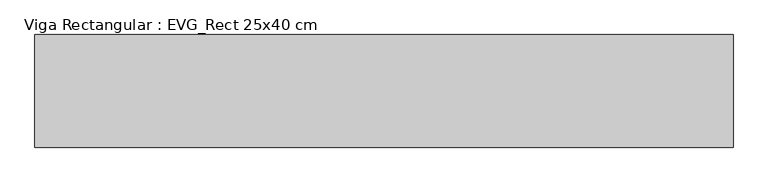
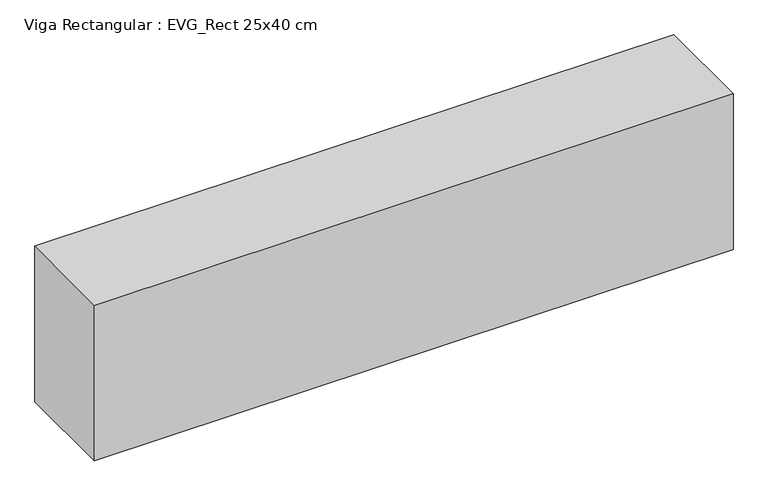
"""IFC4 building model written with IfcOpenShell, lengths in millimetres: beam geometry, Viga Rectangular : EVG_Rect 25x40 cm."""

import ifcopenshell
import ifcopenshell.guid

model = None  # the IFC model being written
_history = None  # IfcOwnerHistory: only IFC2X3 demands one
_inside = {}  # id of a spatial element -> (the spatial element, [elements in it])
_under = {}  # id of a project, library or spatial element -> (it, [spatial elements below it])
_declared = {}  # id of a project -> (the project, [libraries it declares])
_typed = {}  # id of a type object -> (the type object, [elements of that type])
_made_of = {}  # id of a material, layer set ... -> (it, [elements and type objects made of it])


def new_model(schema):
    """Start an empty IFC model of exactly this schema.

    Asked for "IFC4X3", IfcOpenShell would pick the latest addendum, in which some entities
    have other attributes; the version numbers below select the first issue.
    IFC2X3 requires an IfcOwnerHistory on every rooted entity: one is made here for all.
    """
    global model, _history
    if schema == "IFC4X3":
        model = ifcopenshell.file(schema_version=(4, 3, 0, 0))
    else:
        model = ifcopenshell.file(schema=schema)
    _inside.clear()
    _under.clear()
    _declared.clear()
    _typed.clear()
    _made_of.clear()
    _history = None
    if model.schema == "IFC2X3":
        org = make("IfcOrganization", Name="unknown")
        user = make(
            "IfcPersonAndOrganization",
            ThePerson=make("IfcPerson", FamilyName="unknown"),
            TheOrganization=org,
        )
        app = make(
            "IfcApplication",
            ApplicationDeveloper=org,
            Version="unknown",
            ApplicationFullName="unknown",
            ApplicationIdentifier="unknown",
        )
        _history = make(
            "IfcOwnerHistory",
            OwningUser=user,
            OwningApplication=app,
            ChangeAction="ADDED",
            CreationDate=0,
        )
    return model


def make(cls, **values):
    """One entity of the class cls with the attributes given. An attribute that is None is left unset."""
    return model.create_entity(
        cls, **{name: value for name, value in values.items() if value is not None}
    )


def rooted(cls, **values):
    """An entity with a GlobalId (a new one), such as an element, a storey or a relation."""
    return make(cls, GlobalId=ifcopenshell.guid.new(), OwnerHistory=_history, **values)


def si_unit(unit_type, name, prefix=None):
    """IfcSIUnit, for example si_unit("LENGTHUNIT", "METRE", prefix="MILLI")."""
    return make("IfcSIUnit", UnitType=unit_type, Prefix=prefix, Name=name)


def assignment(units):
    """IfcUnitAssignment: the units of a project."""
    return None if units is None else make("IfcUnitAssignment", Units=units)


def point(xyz):
    """IfcCartesianPoint."""
    return None if xyz is None else make("IfcCartesianPoint", Coordinates=xyz)


def direction(xyz):
    """IfcDirection."""
    return None if xyz is None else make("IfcDirection", DirectionRatios=xyz)


def frame(location, z_axis=None, x_axis=None):
    """IfcAxis2Placement3D, a coordinate frame: its origin and axes. An axis left out is left unset."""
    return make(
        "IfcAxis2Placement3D",
        Location=point(location),
        Axis=direction(z_axis),
        RefDirection=direction(x_axis),
    )


def origin():
    """The frame at (0, 0, 0) with its axes left unset."""
    return frame((0.0, 0.0, 0.0))


def place(relative_to, where):
    """IfcLocalPlacement: puts the frame where relative to a parent placement (None: the world)."""
    return make(
        "IfcLocalPlacement", PlacementRelTo=relative_to, RelativePlacement=where
    )


def context(
    kind, dimensions, precision=None, world=None, true_north=None, identifier=None
):
    """IfcGeometricRepresentationContext, for example the 3D "Model" context."""
    return make(
        "IfcGeometricRepresentationContext",
        ContextIdentifier=identifier,
        ContextType=kind,
        CoordinateSpaceDimension=dimensions,
        Precision=precision,
        WorldCoordinateSystem=world,
        TrueNorth=true_north,
    )


def project(units=None, contexts=None):
    """IfcProject with its units and contexts."""
    return rooted(
        "IfcProject",
        Name="project",
        RepresentationContexts=contexts,
        UnitsInContext=assignment(units),
    )


def spatial(cls, under=None, at=None, **own):
    """A site, building, storey or space (cls), placed at a placement, below another one or the project."""
    s = rooted(cls, ObjectPlacement=at, **own)
    if under is not None:
        _under.setdefault(under.id(), (under, []))[1].append(s)
    return s


def polyline(points):
    """IfcPolyline through the points."""
    return make("IfcPolyline", Points=[point(p) for p in points])


def outline(outer, holes=None, kind="AREA"):
    """IfcArbitraryClosedProfileDef: a profile drawn as a closed curve; with holes, ...WithVoids."""
    if holes is None:
        return make("IfcArbitraryClosedProfileDef", ProfileType=kind, OuterCurve=outer)
    return make(
        "IfcArbitraryProfileDefWithVoids",
        ProfileType=kind,
        OuterCurve=outer,
        InnerCurves=holes,
    )


def extrude(swept, where, along, depth):
    """IfcExtrudedAreaSolid: the profile swept, set in the frame where, extruded along a direction by depth."""
    return make(
        "IfcExtrudedAreaSolid",
        SweptArea=swept,
        Position=where,
        ExtrudedDirection=direction(along),
        Depth=depth,
    )


def shape(context_of_items, identifier, shape_type, items):
    """IfcShapeRepresentation: the items that make up one representation, for example the "Body"."""
    return make(
        "IfcShapeRepresentation",
        ContextOfItems=context_of_items,
        RepresentationIdentifier=identifier,
        RepresentationType=shape_type,
        Items=items,
    )


def source(mapping_origin, context_of_items, identifier, shape_type, items):
    """IfcRepresentationMap: a shape defined once, which mapped items show again and again."""
    return make(
        "IfcRepresentationMap",
        MappingOrigin=mapping_origin,
        MappedRepresentation=shape(context_of_items, identifier, shape_type, items),
    )


def transform(
    local_origin,
    x_axis=None,
    y_axis=None,
    z_axis=None,
    scale=None,
    scale2=None,
    scale3=None,
    uniform=True,
):
    """IfcCartesianTransformationOperator3D, or its non-uniform kind. x_axis, y_axis, z_axis: its Axis1, 2, 3."""
    if uniform:
        return make(
            "IfcCartesianTransformationOperator3D",
            Axis1=direction(x_axis),
            Axis2=direction(y_axis),
            LocalOrigin=point(local_origin),
            Scale=scale,
            Axis3=direction(z_axis),
        )
    return make(
        "IfcCartesianTransformationOperator3DnonUniform",
        Axis1=direction(x_axis),
        Axis2=direction(y_axis),
        LocalOrigin=point(local_origin),
        Scale=scale,
        Axis3=direction(z_axis),
        Scale2=scale2,
        Scale3=scale3,
    )


def mapped(mapping_source, mapping_target):
    """IfcMappedItem: shows the shape of a source again, moved by a transform."""
    return make(
        "IfcMappedItem", MappingSource=mapping_source, MappingTarget=mapping_target
    )


def made_of(thing, what):
    """Note that an element or type object is made of a material, layer set ...; save() writes the relation."""
    if what is not None:
        _made_of.setdefault(what.id(), (what, []))[1].append(thing)
    return thing


def element(
    cls,
    number,
    at=None,
    inside=None,
    cuts=None,
    type_object=None,
    material=None,
    context=None,
    identifier="Body",
    shape_type=None,
    held_by="IfcProductDefinitionShape",
    body=None,
    shapes=None,
    **own,
):
    """One element of the class cls, such as IfcWall. Its Tag is "e" and its number.

    at: its placement. inside: the storey or other place that contains it. cuts: it is an
    opening in that element (IfcRelVoidsElement). A single representation is given by context,
    identifier, shape_type and body (its items); several are given by shapes. held_by: the class
    of the entity that holds the representations. save() writes the other relations.
    """
    e = rooted(cls, Tag="e%d" % number, ObjectPlacement=at, **own)
    if body is not None:
        shapes = [shape(context, identifier, shape_type, body)]
    if shapes is not None:
        e.Representation = make(held_by, Representations=shapes)
    if inside is not None:
        _inside.setdefault(inside.id(), (inside, []))[1].append(e)
    if cuts is not None:
        rooted(
            "IfcRelVoidsElement", RelatingBuildingElement=cuts, RelatedOpeningElement=e
        )
    if type_object is not None:
        _typed.setdefault(type_object.id(), (type_object, []))[1].append(e)
    return made_of(e, material)


def aggregate(whole, parts):
    """IfcRelAggregates: a whole, such as a stair, and the parts it consists of."""
    return rooted("IfcRelAggregates", RelatingObject=whole, RelatedObjects=parts)


def save(model, path):
    """Write the relations noted so far, then the file.

    IfcRelAggregates (storeys below a building ...), IfcRelContainedInSpatialStructure (elements
    in a storey), IfcRelDefinesByType, IfcRelAssociatesMaterial and IfcRelDeclares: one each for
    every whole, place, type object, material and project.
    """
    for whole, parts in _under.values():
        aggregate(whole, parts)
    for where, things in _inside.values():
        rooted(
            "IfcRelContainedInSpatialStructure",
            RelatedElements=things,
            RelatingStructure=where,
        )
    for kind, things in _typed.values():
        rooted("IfcRelDefinesByType", RelatedObjects=things, RelatingType=kind)
    for what, things in _made_of.values():
        rooted("IfcRelAssociatesMaterial", RelatedObjects=things, RelatingMaterial=what)
    for by, libraries in _declared.values():
        rooted("IfcRelDeclares", RelatingContext=by, RelatedDefinitions=libraries)
    model.write(path)


def viga_rectangular_evg_rect_25x40_cm_3ab7e52c(model_context):
    return source(origin(), model_context, "Body", "SweptSolid", [
        extrude(outline(polyline([(610.0, 125.0), (610.0, -125.0), (-940.0, -125.0), (-940.0, 125.0), (610.0, 125.0)])), frame((0.0, 0.0, -400.0), z_axis=(0.0, 0.0, 1.0), x_axis=(1.0, 0.0, 0.0)), (0.0, 0.0, 1.0), 400.0),
    ])


if __name__ == "__main__":
    model = new_model("IFC4")
    model_context = context("Model", 3, world=origin())
    ifc_project = project(units=[si_unit("LENGTHUNIT", "METRE", prefix="MILLI")], contexts=[model_context])
    site = spatial("IfcSite", under=ifc_project)
    building = spatial("IfcBuilding", under=site)
    placement = place(None, origin())
    viga_rectangular_evg_rect_25x40_cm_shape = viga_rectangular_evg_rect_25x40_cm_3ab7e52c(model_context)
    element("IfcBeam", 1, ObjectType="Viga Rectangular : EVG_Rect 25x40 cm", at=placement, inside=building, context=model_context, shape_type="MappedRepresentation", body=[
        mapped(viga_rectangular_evg_rect_25x40_cm_shape, transform((0.0, 0.0, 0.0), x_axis=(1.0, 0.0, 0.0), y_axis=(0.0, 1.0, 0.0), z_axis=(0.0, 0.0, 1.0))),
    ])
    save(model, "model.ifc")
